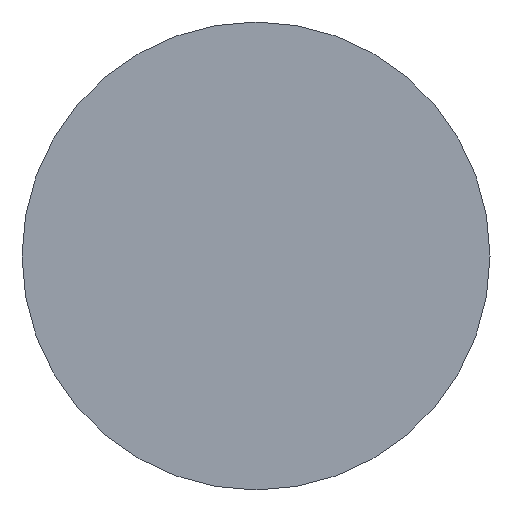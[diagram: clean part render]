
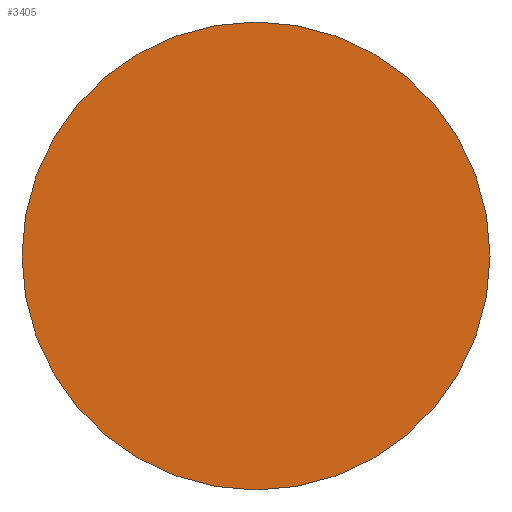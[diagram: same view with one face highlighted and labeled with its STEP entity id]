
A CAD part, front view. The second image highlights one B-rep face of the part: STEP entity #3405.
In plain terms, the highlighted planar face has unit normal (0, -1, 0).
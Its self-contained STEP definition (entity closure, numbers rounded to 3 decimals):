
#9 = DIRECTION ( 'NONE',  ( 0., -1., 0. ) ) ;
#208 = DIRECTION ( 'NONE',  ( 0., -1., 0. ) ) ;
#570 = VERTEX_POINT ( 'NONE', #3881 ) ;
#1222 = CARTESIAN_POINT ( 'NONE',  ( 27.5, -24., 0. ) ) ;
#1659 = ORIENTED_EDGE ( 'NONE', *, *, #3991, .T. ) ;
#1668 = CARTESIAN_POINT ( 'NONE',  ( 0., -24., 0. ) ) ;
#1945 = CIRCLE ( 'NONE', #2469, 27.5 ) ;
#2002 = AXIS2_PLACEMENT_3D ( 'NONE', #1668, #3285, #2914 ) ;
#2117 = ORIENTED_EDGE ( 'NONE', *, *, #3892, .T. ) ;
#2123 = DIRECTION ( 'NONE',  ( 1., 0., 0. ) ) ;
#2154 = CARTESIAN_POINT ( 'NONE',  ( 0., -24., 0. ) ) ;
#2469 = AXIS2_PLACEMENT_3D ( 'NONE', #2154, #208, #3681 ) ;
#2726 = AXIS2_PLACEMENT_3D ( 'NONE', #1222, #9, #2123 ) ;
#2914 = DIRECTION ( 'NONE',  ( 1., 0., 0. ) ) ;
#3121 = CIRCLE ( 'NONE', #2002, 27.5 ) ;
#3285 = DIRECTION ( 'NONE',  ( 0., -1., 0. ) ) ;
#3393 = EDGE_LOOP ( 'NONE', ( #2117, #1659 ) ) ;
#3405 = ADVANCED_FACE ( 'NONE', ( #3673 ), #3434, .T. ) ;
#3434 = PLANE ( 'NONE',  #2726 ) ;
#3620 = VERTEX_POINT ( 'NONE', #3889 ) ;
#3673 = FACE_OUTER_BOUND ( 'NONE', #3393, .T. ) ;
#3681 = DIRECTION ( 'NONE',  ( 1., 0., 0. ) ) ;
#3881 = CARTESIAN_POINT ( 'NONE',  ( -27.5, -24., 0. ) ) ;
#3889 = CARTESIAN_POINT ( 'NONE',  ( 27.5, -24., 0. ) ) ;
#3892 = EDGE_CURVE ( 'NONE', #3620, #570, #3121, .T. ) ;
#3991 = EDGE_CURVE ( 'NONE', #570, #3620, #1945, .T. ) ;
